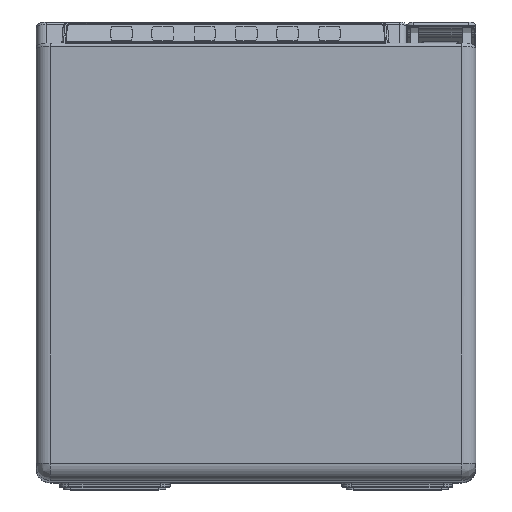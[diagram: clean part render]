
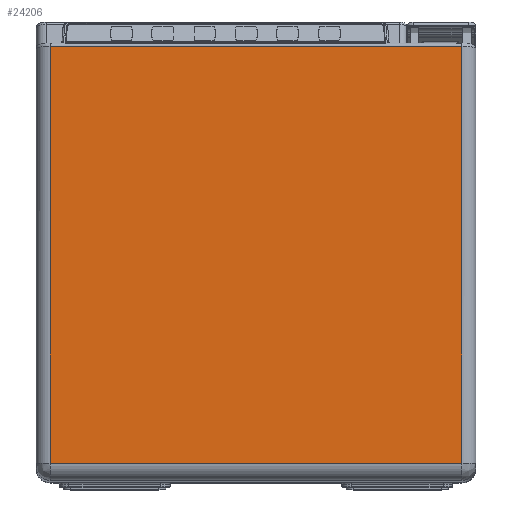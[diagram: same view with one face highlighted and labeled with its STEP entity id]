
A CAD part, top view. The second image highlights one B-rep face of the part: STEP entity #24206.
In plain terms, the highlighted planar face has unit normal (0, 0, 1).
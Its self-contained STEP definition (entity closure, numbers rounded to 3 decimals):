
#289=CARTESIAN_POINT('',(27.9,19.415,23.5));
#6674=DIRECTION('',(0.,-1.,0.));
#6675=VECTOR('',#6674,120.371);
#6676=CARTESIAN_POINT('',(27.9,19.415,23.5));
#6677=LINE('',#6676,#6675);
#6678=DIRECTION('',(1.,0.,0.));
#6679=VECTOR('',#6678,119.);
#6680=CARTESIAN_POINT('',(-91.1,-100.956,23.5));
#6681=LINE('',#6680,#6679);
#6682=DIRECTION('',(0.,1.,0.));
#6683=VECTOR('',#6682,120.371);
#6684=CARTESIAN_POINT('',(-91.1,-100.956,23.5));
#6685=LINE('',#6684,#6683);
#6686=DIRECTION('',(-1.,0.,0.));
#6687=VECTOR('',#6686,119.);
#6688=CARTESIAN_POINT('',(27.9,19.415,23.5));
#6689=LINE('',#6688,#6687);
#15750=CARTESIAN_POINT('',(27.9,-100.956,23.5));
#15752=VERTEX_POINT('',#15750);
#15754=CARTESIAN_POINT('',(-91.1,-100.956,23.5));
#15756=VERTEX_POINT('',#15754);
#15776=VERTEX_POINT('',#289);
#15777=CARTESIAN_POINT('',(-91.1,19.415,23.5));
#15778=VERTEX_POINT('',#15777);
#24193=CARTESIAN_POINT('',(-95.1,20.5,23.5));
#24194=DIRECTION('',(0.,0.,1.));
#24195=DIRECTION('',(0.,-1.,0.));
#24196=AXIS2_PLACEMENT_3D('',#24193,#24194,#24195);
#24197=PLANE('',#24196);
#24198=ORIENTED_EDGE('',*,*,#18548,.T.);
#24200=ORIENTED_EDGE('',*,*,#24199,.F.);
#24201=ORIENTED_EDGE('',*,*,#24184,.T.);
#24203=ORIENTED_EDGE('',*,*,#24202,.F.);
#24204=EDGE_LOOP('',(#24198,#24200,#24201,#24203));
#24205=FACE_OUTER_BOUND('',#24204,.F.);
#18548=EDGE_CURVE('',#15776,#15752,#6677,.T.);
#24184=EDGE_CURVE('',#15756,#15778,#6685,.T.);
#24199=EDGE_CURVE('',#15756,#15752,#6681,.T.);
#24202=EDGE_CURVE('',#15776,#15778,#6689,.T.);
#24206=ADVANCED_FACE('',(#24205),#24197,.T.);
